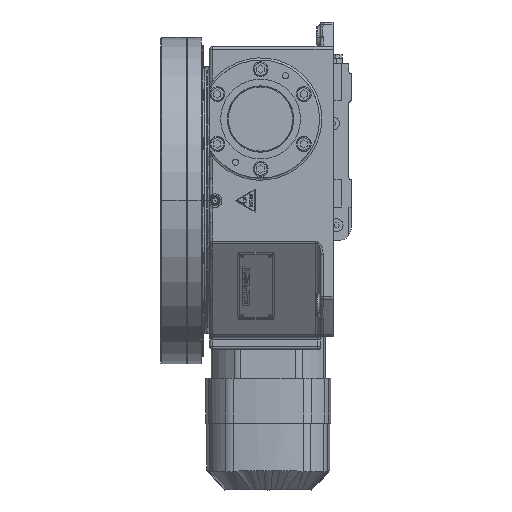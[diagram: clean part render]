
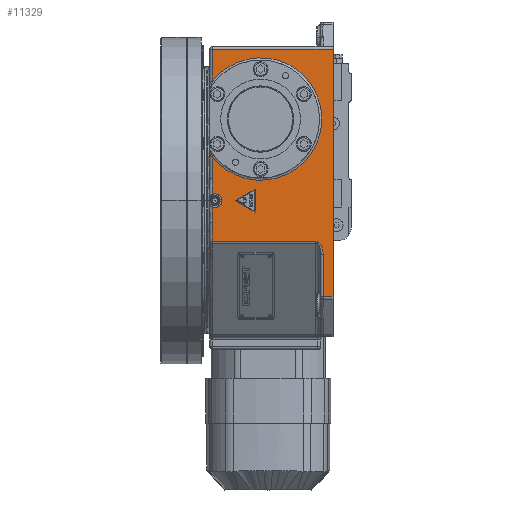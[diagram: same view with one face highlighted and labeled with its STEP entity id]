
A CAD part, left-side view. The second image highlights one B-rep face of the part: STEP entity #11329.
In plain terms, the highlighted planar face has unit normal (-1, 0, 0).
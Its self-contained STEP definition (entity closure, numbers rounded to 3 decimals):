
#830=CARTESIAN_POINT('',(-150.,130.,0.));
#831=DIRECTION('',(-1.,0.,0.));
#832=DIRECTION('',(0.,0.439,-0.899));
#833=AXIS2_PLACEMENT_3D('',#830,#831,#832);
#835=CARTESIAN_POINT('',(-150.,133.29,6.74));
#836=CARTESIAN_POINT('',(-150.,133.262,8.688));
#837=CARTESIAN_POINT('',(-150.,133.184,12.587));
#838=CARTESIAN_POINT('',(-150.,133.05,18.454));
#839=CARTESIAN_POINT('',(-150.,133.001,22.371));
#840=CARTESIAN_POINT('',(-150.,133.,24.331));
#842=DIRECTION('',(0.,0.,1.));
#843=VECTOR('',#842,23.869);
#844=CARTESIAN_POINT('',(-150.,133.,24.331));
#845=LINE('',#844,#843);
#846=CARTESIAN_POINT('',(-150.,80.,90.));
#847=DIRECTION('',(-1.,0.,0.));
#848=DIRECTION('',(0.,0.785,-0.619));
#849=AXIS2_PLACEMENT_3D('',#846,#847,#848);
#851=DIRECTION('',(0.,0.,-1.));
#852=VECTOR('',#851,35.2);
#853=CARTESIAN_POINT('',(-150.,133.,167.));
#854=LINE('',#853,#852);
#855=DIRECTION('',(0.,-1.,0.));
#856=VECTOR('',#855,133.);
#857=CARTESIAN_POINT('',(-150.,133.,167.));
#858=LINE('',#857,#856);
#859=DIRECTION('',(0.,0.,1.));
#860=VECTOR('',#859,272.579);
#861=CARTESIAN_POINT('',(-150.,0.,-105.579));
#862=LINE('',#861,#860);
#863=DIRECTION('',(0.,-1.,0.));
#864=VECTOR('',#863,11.);
#865=CARTESIAN_POINT('',(-150.,11.,-105.579));
#866=LINE('',#865,#864);
#867=DIRECTION('',(0.,0.,1.));
#868=VECTOR('',#867,46.442);
#869=CARTESIAN_POINT('',(-150.,11.,-105.579));
#870=LINE('',#869,#868);
#871=CARTESIAN_POINT('',(-150.,11.,-59.137));
#872=CARTESIAN_POINT('',(-150.,11.,-58.171));
#873=CARTESIAN_POINT('',(-150.,11.114,-56.338));
#874=CARTESIAN_POINT('',(-150.,11.544,-53.881));
#875=CARTESIAN_POINT('',(-150.,12.184,-51.704));
#876=CARTESIAN_POINT('',(-150.,13.004,-49.803));
#877=CARTESIAN_POINT('',(-150.,13.984,-48.185));
#878=CARTESIAN_POINT('',(-150.,15.115,-46.866));
#879=CARTESIAN_POINT('',(-150.,15.943,-46.223));
#880=CARTESIAN_POINT('',(-150.,16.379,-45.959));
#882=CARTESIAN_POINT('',(-150.,16.379,-45.959));
#883=CARTESIAN_POINT('',(-150.,16.695,-45.768));
#884=CARTESIAN_POINT('',(-150.,17.315,-45.417));
#885=CARTESIAN_POINT('',(-150.,18.196,-44.96));
#886=CARTESIAN_POINT('',(-150.,18.74,-44.688));
#887=CARTESIAN_POINT('',(-150.,19.,-44.558));
#889=DIRECTION('',(0.,-1.,0.));
#890=VECTOR('',#889,114.);
#891=CARTESIAN_POINT('',(-150.,133.,-44.558));
#892=LINE('',#891,#890);
#893=DIRECTION('',(0.,0.,1.));
#894=VECTOR('',#893,20.227);
#895=CARTESIAN_POINT('',(-150.,133.,-44.558));
#896=LINE('',#895,#894);
#897=CARTESIAN_POINT('',(-150.,133.,-24.331));
#898=CARTESIAN_POINT('',(-150.,133.001,-22.371));
#899=CARTESIAN_POINT('',(-150.,133.05,-18.454));
#900=CARTESIAN_POINT('',(-150.,133.183,-12.588));
#901=CARTESIAN_POINT('',(-150.,133.262,-8.688));
#902=CARTESIAN_POINT('',(-150.,133.29,-6.74));
#8025=CARTESIAN_POINT('',(-150.,133.,48.2));
#8040=CARTESIAN_POINT('',(-150.,133.,131.8));
#9119=CARTESIAN_POINT('',(-150.,0.,-105.579));
#9120=CARTESIAN_POINT('',(-150.,0.,167.));
#9121=VERTEX_POINT('',#9119);
#9122=VERTEX_POINT('',#9120);
#9183=CARTESIAN_POINT('',(-150.,133.29,6.74));
#9184=CARTESIAN_POINT('',(-150.,133.29,-6.74));
#9185=VERTEX_POINT('',#9183);
#9186=VERTEX_POINT('',#9184);
#9749=VERTEX_POINT('',#882);
#9750=VERTEX_POINT('',#887);
#9753=VERTEX_POINT('',#871);
#9756=CARTESIAN_POINT('',(-150.,11.,-105.579));
#9757=VERTEX_POINT('',#9756);
#9888=VERTEX_POINT('',#8040);
#9892=CARTESIAN_POINT('',(-150.,133.,167.));
#9893=VERTEX_POINT('',#9892);
#9938=VERTEX_POINT('',#8025);
#9942=CARTESIAN_POINT('',(-150.,133.,24.331));
#9943=VERTEX_POINT('',#9942);
#9948=CARTESIAN_POINT('',(-150.,133.,-44.558));
#9949=CARTESIAN_POINT('',(-150.,133.,
-24.331));
#9950=VERTEX_POINT('',#9948);
#9951=VERTEX_POINT('',#9949);
#11299=CARTESIAN_POINT('',(-150.,-4.,-107.156));
#11300=DIRECTION('',(-1.,0.,0.));
#11301=DIRECTION('',(0.,0.,1.));
#11302=AXIS2_PLACEMENT_3D('',#11299,#11300,#11301);
#11303=PLANE('',#11302);
#11305=ORIENTED_EDGE('',*,*,#11304,.T.);
#11307=ORIENTED_EDGE('',*,*,#11306,.T.);
#11309=ORIENTED_EDGE('',*,*,#11308,.T.);
#11311=ORIENTED_EDGE('',*,*,#11310,.T.);
#11313=ORIENTED_EDGE('',*,*,#11312,.F.);
#11314=ORIENTED_EDGE('',*,*,#11291,.T.);
#11315=ORIENTED_EDGE('',*,*,#10790,.F.);
#11316=ORIENTED_EDGE('',*,*,#10765,.F.);
#11317=ORIENTED_EDGE('',*,*,#10467,.T.);
#11318=ORIENTED_EDGE('',*,*,#10523,.T.);
#11320=ORIENTED_EDGE('',*,*,#11319,.T.);
#11322=ORIENTED_EDGE('',*,*,#11321,.F.);
#11324=ORIENTED_EDGE('',*,*,#11323,.T.);
#11326=ORIENTED_EDGE('',*,*,#11325,.T.);
#11327=EDGE_LOOP('',(#11305,#11307,#11309,#11311,#11313,#11314,#11315,#11316,
#11317,#11318,#11320,#11322,#11324,#11326));
#11328=FACE_OUTER_BOUND('',#11327,.F.);
#11329=ADVANCED_FACE('',(#11328),#11303,.T.);
#834=CIRCLE('',#833,7.5);
#841=B_SPLINE_CURVE_WITH_KNOTS('',3,(#835,#836,#837,#838,#839,#840),
.UNSPECIFIED.,.F.,.F.,(4,1,1,4),(0.,0.333,0.667,1.),
.UNSPECIFIED.);
#850=CIRCLE('',#849,67.5);
#881=B_SPLINE_CURVE_WITH_KNOTS('',3,(#871,#872,#873,#874,#875,#876,#877,#878,
#879,#880),.UNSPECIFIED.,.F.,.F.,(4,1,1,1,1,1,1,4),(0.,0.143,
0.286,0.429,0.571,0.714,
0.857,1.),.UNSPECIFIED.);
#888=B_SPLINE_CURVE_WITH_KNOTS('',3,(#882,#883,#884,#885,#886,#887),
.UNSPECIFIED.,.F.,.F.,(4,1,1,4),(0.,0.333,0.667,1.),
.UNSPECIFIED.);
#903=B_SPLINE_CURVE_WITH_KNOTS('',3,(#897,#898,#899,#900,#901,#902),
.UNSPECIFIED.,.F.,.F.,(4,1,1,4),(0.,0.333,0.667,1.),
.UNSPECIFIED.);
#10467=EDGE_CURVE('',#9757,#9753,#870,.T.);
#10523=EDGE_CURVE('',#9753,#9749,#881,.T.);
#10765=EDGE_CURVE('',#9757,#9121,#866,.T.);
#10790=EDGE_CURVE('',#9121,#9122,#862,.T.);
#11291=EDGE_CURVE('',#9893,#9122,#858,.T.);
#11304=EDGE_CURVE('',#9186,#9185,#834,.T.);
#11306=EDGE_CURVE('',#9185,#9943,#841,.T.);
#11308=EDGE_CURVE('',#9943,#9938,#845,.T.);
#11310=EDGE_CURVE('',#9938,#9888,#850,.T.);
#11312=EDGE_CURVE('',#9893,#9888,#854,.T.);
#11319=EDGE_CURVE('',#9749,#9750,#888,.T.);
#11321=EDGE_CURVE('',#9950,#9750,#892,.T.);
#11323=EDGE_CURVE('',#9950,#9951,#896,.T.);
#11325=EDGE_CURVE('',#9951,#9186,#903,.T.);
